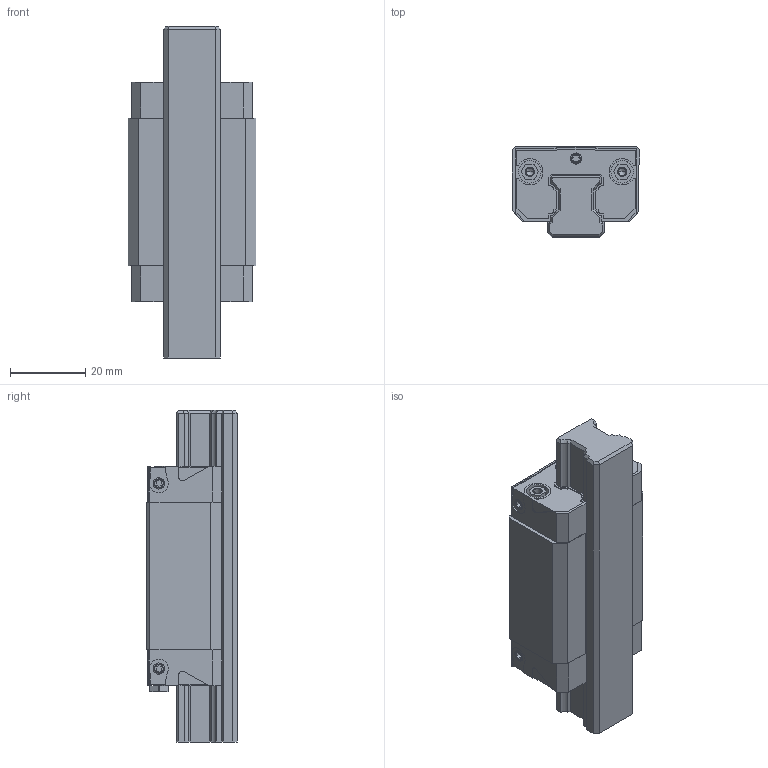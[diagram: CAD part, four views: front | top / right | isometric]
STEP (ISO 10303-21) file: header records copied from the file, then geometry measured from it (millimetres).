
FILE_DESCRIPTION((''),'2;1');
FILE_NAME('KWD_015_SNS_AL__ASM','2021-10-14T08:29:05',('ac91sw'),(''),'CREO PARAMETRIC BY PTC INC, 2020044','CREO PARAMETRIC BY PTC INC, 2020044','');
FILE_SCHEMA(('AUTOMOTIVE_DESIGN { 1 0 10303 214 1 1 1 1 }'));
Length unit declared in the file: millimetre
Products named in the file (7): KWD_015_SNS_AL__SKEL; R201110131; R200110102_Z; R343708901_Z; KWD_015_SNS_AL__PSF; R341702909_Z; KWD_015_SNS_AL__ASM
Assembly tree (11 placements, depth 2):
  KWD_015_SNS_AL__ASM
    KWD_015_SNS_AL__SKEL
    R201110131
    R200110102_Z  x2
    R343708901_Z  x5
    KWD_015_SNS_AL__PSF
    R341702909_Z
Bounding box: 34 x 24 x 88.2 mm (x, y, z)
Volume: 41683 mm3; surface area: 20339.5 mm2
Topology: 10 solids, 24 shells, 501 faces, 1294 edges, 827 vertices
Faces by surface type: plane 291, cylinder 146, cone 64
Entity records: 16301 total; most frequent: CARTESIAN_POINT 1969, DIRECTION 1620, ORIENTED_EDGE 1520, PROPERTY_DEFINITION 824, REPRESENTATION 815, PROPERTY_DEFINITION_REPRESENTATION 815, EDGE_CURVE 776, DESCRIPTIVE_REPRESENTATION_ITEM 758
